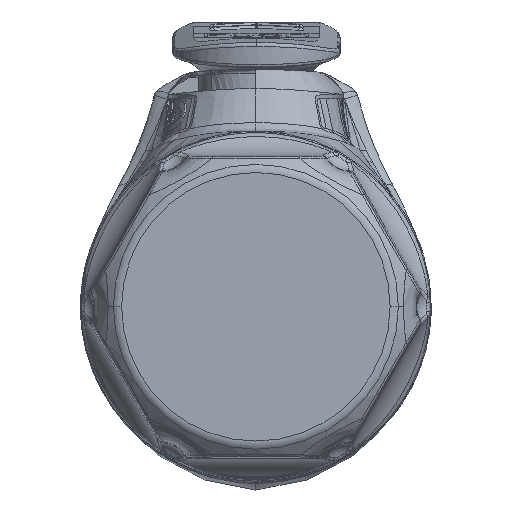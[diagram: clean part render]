
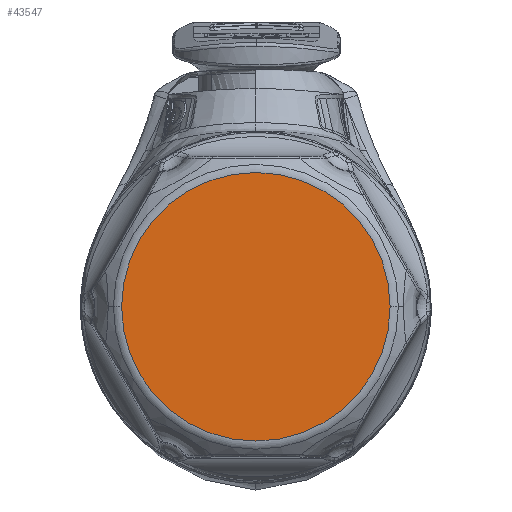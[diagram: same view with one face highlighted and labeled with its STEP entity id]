
A CAD part, front view. The second image highlights one B-rep face of the part: STEP entity #43547.
In plain terms, the highlighted planar face has unit normal (0, -1, 0).
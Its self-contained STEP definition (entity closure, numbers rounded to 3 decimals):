
#2553 = ORIENTED_EDGE ( 'NONE', *, *, #36566, .T. ) ;
#5415 = CIRCLE ( 'NONE', #11466, 11.016 ) ;
#6544 = FACE_OUTER_BOUND ( 'NONE', #27642, .T. ) ;
#7944 = CARTESIAN_POINT ( 'NONE',  ( 10.398, -58.7, 0. ) ) ;
#11466 = AXIS2_PLACEMENT_3D ( 'NONE', #55748, #84744, #85229 ) ;
#20796 = DIRECTION ( 'NONE',  ( 0., 0., 1. ) ) ;
#24565 = CARTESIAN_POINT ( 'NONE',  ( -11.016, -58.7, 0. ) ) ;
#27642 = EDGE_LOOP ( 'NONE', ( #2553, #58053 ) ) ;
#29366 = DIRECTION ( 'NONE',  ( 0., 1., 0. ) ) ;
#31190 = CARTESIAN_POINT ( 'NONE',  ( 0., -58.7, 0. ) ) ;
#31320 = CIRCLE ( 'NONE', #81383, 11.016 ) ;
#34992 = AXIS2_PLACEMENT_3D ( 'NONE', #7944, #29366, #20796 ) ;
#36025 = PLANE ( 'NONE',  #34992 ) ;
#36566 = EDGE_CURVE ( 'NONE', #55951, #91442, #31320, .T. ) ;
#40636 = EDGE_CURVE ( 'NONE', #91442, #55951, #5415, .T. ) ;
#43547 = ADVANCED_FACE ( 'NONE', ( #6544 ), #36025, .F. ) ;
#55748 = CARTESIAN_POINT ( 'NONE',  ( 0., -58.7, 0. ) ) ;
#55951 = VERTEX_POINT ( 'NONE', #71989 ) ;
#58053 = ORIENTED_EDGE ( 'NONE', *, *, #40636, .T. ) ;
#71989 = CARTESIAN_POINT ( 'NONE',  ( 11.016, -58.7, 0. ) ) ;
#81383 = AXIS2_PLACEMENT_3D ( 'NONE', #31190, #89195, #88726 ) ;
#84744 = DIRECTION ( 'NONE',  ( 0., -1., 0. ) ) ;
#85229 = DIRECTION ( 'NONE',  ( 1., 0., 0. ) ) ;
#88726 = DIRECTION ( 'NONE',  ( 1., 0., 0. ) ) ;
#89195 = DIRECTION ( 'NONE',  ( 0., -1., 0. ) ) ;
#91442 = VERTEX_POINT ( 'NONE', #24565 ) ;
